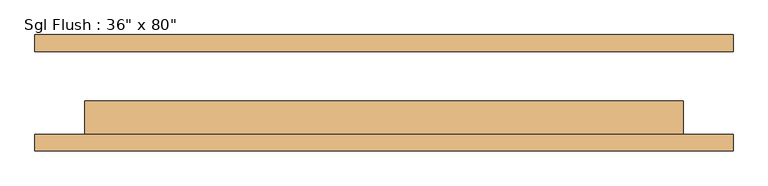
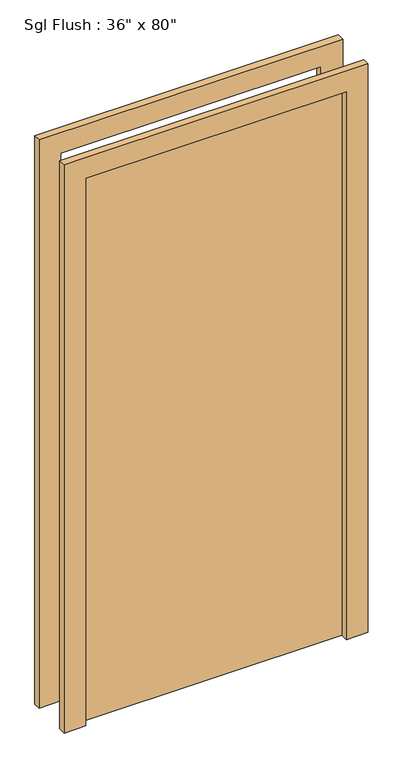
"""IFC4 building model written with IfcOpenShell, lengths in millimetres: door geometry."""

from ifc_helpers import new_model, si_unit, frame, origin, origin_with_axes, place, context, project, spatial, polyline, outline, extrude, source, transform, mapped, element, save


def door_5c18bfee(model_context):
    return source(origin(), model_context, "Body", "SweptSolid", [
        extrude(outline(polyline([(2108.2, -533.4), (0.0, -533.4), (0.0, -457.2), (2032.0, -457.2), (2032.0, 457.2), (0.0, 457.2), (0.0, 533.4), (2108.2, 533.4), (2108.2, -533.4)])), frame((0.0, -88.9, 0.0), z_axis=(0.0, 1.0, 0.0), x_axis=(0.0, 0.0, 1.0)), (0.0, 0.0, 1.0), 25.4),
        extrude(outline(polyline([(2108.2, 533.4), (2108.2, -533.4), (0.0, -533.4), (0.0, -457.2), (2032.0, -457.2), (2032.0, 457.2), (0.0, 457.2), (0.0, 533.4), (2108.2, 533.4)])), frame((0.0, 63.5, 0.0), z_axis=(0.0, 1.0, 0.0), x_axis=(0.0, 0.0, 1.0)), (0.0, 0.0, 1.0), 25.4),
        extrude(outline(polyline([(457.2, -12.7), (457.2, -63.5), (-457.2, -63.5), (-457.2, -12.7), (457.2, -12.7)])), origin_with_axes(), (0.0, 0.0, 1.0), 2032.0),
    ])


if __name__ == "__main__":
    model = new_model("IFC4")
    model_context = context("Model", 3, world=origin())
    ifc_project = project(units=[si_unit("LENGTHUNIT", "METRE", prefix="MILLI")], contexts=[model_context])
    site = spatial("IfcSite", under=ifc_project)
    building = spatial("IfcBuilding", under=site)
    placement = place(None, origin())
    door_shape = door_5c18bfee(model_context)
    element("IfcDoor", 1, ObjectType="Sgl Flush : 36\" x 80\"", at=placement, inside=building, context=model_context, shape_type="MappedRepresentation", body=[
        mapped(door_shape, transform((0.0, 0.0, 0.0), x_axis=(1.0, 0.0, 0.0), y_axis=(0.0, 1.0, 0.0), z_axis=(0.0, 0.0, 1.0))),
    ])
    save(model, "model.ifc")
